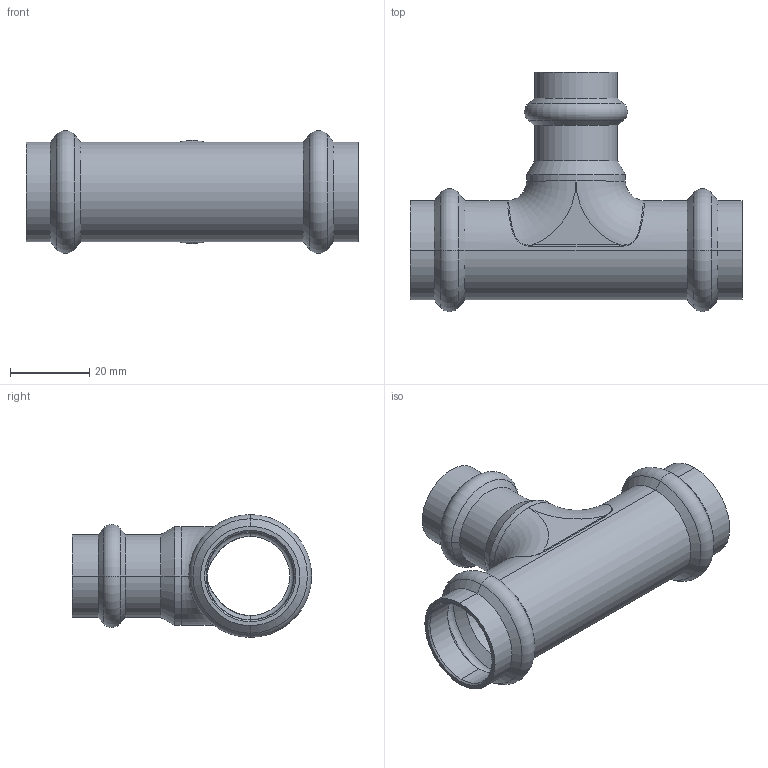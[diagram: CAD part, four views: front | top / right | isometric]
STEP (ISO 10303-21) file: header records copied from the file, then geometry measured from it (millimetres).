
FILE_DESCRIPTION (( 'STEP AP203' ), '1' );
FILE_NAME ('SP5130 Ø22-18-22.STEP', '2017-04-25T14:28:11', ( '' ), ( '' ), 'SwSTEP 2.0', 'SolidWorks 2016', '' );
FILE_SCHEMA (( 'CONFIG_CONTROL_DESIGN' ));
Length unit declared in the file: millimetre
Products named in the file (1): SP5130 Ø22-18-22
Bounding box: 84 x 60.55 x 31.1 mm (x, y, z)
Volume: 15717.8 mm3; surface area: 18069.8 mm2
Topology: 1 solids, 1 shells, 104 faces, 220 edges, 116 vertices
Faces by surface type: cone 36, cylinder 35, torus 20, plane 7, bspline 6
Entity records: 4371 total; most frequent: CARTESIAN_POINT 2069, DIRECTION 522, ORIENTED_EDGE 432, AXIS2_PLACEMENT_3D 225, EDGE_CURVE 216, CIRCLE 126, VERTEX_POINT 116, EDGE_LOOP 110
